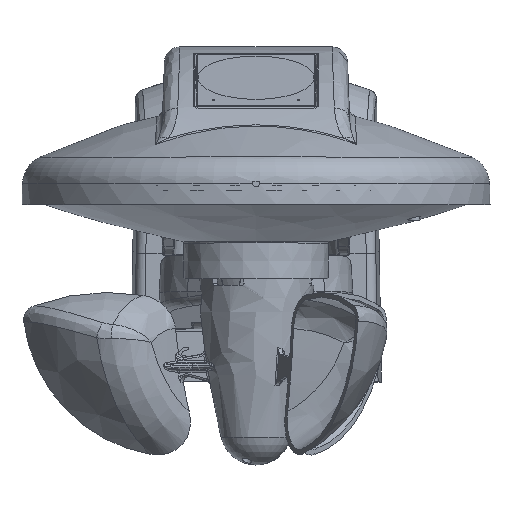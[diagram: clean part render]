
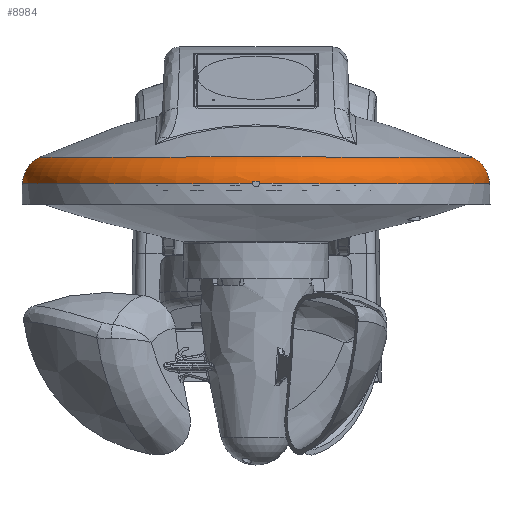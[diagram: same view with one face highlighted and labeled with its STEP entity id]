
A CAD part, top view. The second image highlights one B-rep face of the part: STEP entity #8984.
In plain terms, the highlighted toroidal (fillet/blend) face has major radius 52.495 mm and minor radius 8 mm.
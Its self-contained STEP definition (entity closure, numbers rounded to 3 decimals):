
#599=TOROIDAL_SURFACE('',#33919,52.495,8.);
#4808=CIRCLE('',#33915,60.49);
#4809=CIRCLE('',#33916,60.49);
#4810=CIRCLE('',#33918,56.093);
#8984=ADVANCED_FACE('',(#10714),#599,.T.);
#10714=FACE_OUTER_BOUND('',#12209,.T.);
#12209=EDGE_LOOP('',(#18430,#18431,#18432,#18433,#18434,#18435,#18436,#18437,
#18438,#18439,#18440,#18441));
#18430=ORIENTED_EDGE('',*,*,#27763,.T.);
#18431=ORIENTED_EDGE('',*,*,#27747,.F.);
#18432=ORIENTED_EDGE('',*,*,#27746,.T.);
#18433=ORIENTED_EDGE('',*,*,#27745,.T.);
#18434=ORIENTED_EDGE('',*,*,#27756,.T.);
#18435=ORIENTED_EDGE('',*,*,#27762,.T.);
#18436=ORIENTED_EDGE('',*,*,#27764,.F.);
#18437=ORIENTED_EDGE('',*,*,#27765,.F.);
#18438=ORIENTED_EDGE('',*,*,#27766,.F.);
#18439=ORIENTED_EDGE('',*,*,#27760,.T.);
#18440=ORIENTED_EDGE('',*,*,#27754,.T.);
#18441=ORIENTED_EDGE('',*,*,#27743,.T.);
#22518=VERTEX_POINT('',#61683);
#22521=VERTEX_POINT('',#61717);
#22613=VERTEX_POINT('',#64975);
#22614=VERTEX_POINT('',#65002);
#22615=VERTEX_POINT('',#65007);
#22616=VERTEX_POINT('',#65012);
#22617=VERTEX_POINT('',#65017);
#22618=VERTEX_POINT('',#65155);
#22619=VERTEX_POINT('',#65256);
#22620=VERTEX_POINT('',#65282);
#22621=VERTEX_POINT('',#65292);
#22622=VERTEX_POINT('',#65297);
#27743=EDGE_CURVE('',#22521,#22613,#30441,.T.);
#27745=EDGE_CURVE('',#22615,#22614,#30443,.T.);
#27746=EDGE_CURVE('',#22616,#22615,#30444,.T.);
#27747=EDGE_CURVE('',#22616,#22617,#30445,.T.);
#27754=EDGE_CURVE('',#22618,#22521,#30450,.T.);
#27756=EDGE_CURVE('',#22614,#22518,#30451,.T.);
#27760=EDGE_CURVE('',#22619,#22618,#4808,.T.);
#27762=EDGE_CURVE('',#22518,#22620,#4809,.T.);
#27763=EDGE_CURVE('',#22613,#22617,#4810,.T.);
#27764=EDGE_CURVE('',#22621,#22620,#30454,.T.);
#27765=EDGE_CURVE('',#22622,#22621,#30455,.T.);
#27766=EDGE_CURVE('',#22619,#22622,#30456,.T.);
#30441=B_SPLINE_CURVE_WITH_KNOTS('',3,(#64976,#64977,#64978,#64979),
 .UNSPECIFIED.,.F.,.F.,(4,4),(0.,1.),.UNSPECIFIED.);
#30443=B_SPLINE_CURVE_WITH_KNOTS('',3,(#65003,#65004,#65005,#65006),
 .UNSPECIFIED.,.F.,.F.,(4,4),(0.,1.),.UNSPECIFIED.);
#30444=B_SPLINE_CURVE_WITH_KNOTS('',3,(#65008,#65009,#65010,#65011),
 .UNSPECIFIED.,.F.,.F.,(4,4),(0.,1.),.UNSPECIFIED.);
#30445=B_SPLINE_CURVE_WITH_KNOTS('',3,(#65013,#65014,#65015,#65016),
 .UNSPECIFIED.,.F.,.F.,(4,4),(0.,1.),.UNSPECIFIED.);
#30450=B_SPLINE_CURVE_WITH_KNOTS('',3,(#65172,#65173,#65174,#65175),
 .UNSPECIFIED.,.F.,.F.,(4,4),(0.,1.),.UNSPECIFIED.);
#30451=B_SPLINE_CURVE_WITH_KNOTS('',3,(#65201,#65202,#65203,#65204),
 .UNSPECIFIED.,.F.,.F.,(4,4),(0.,1.),.UNSPECIFIED.);
#30454=B_SPLINE_CURVE_WITH_KNOTS('',3,(#65286,#65287,#65288,#65289,#65290,
#65291),.UNSPECIFIED.,.F.,.F.,(4,2,4),(0.,0.383,1.),
 .UNSPECIFIED.);
#30455=B_SPLINE_CURVE_WITH_KNOTS('',3,(#65293,#65294,#65295,#65296),
 .UNSPECIFIED.,.F.,.F.,(4,4),(0.,1.),.UNSPECIFIED.);
#30456=B_SPLINE_CURVE_WITH_KNOTS('',3,(#65298,#65299,#65300,#65301,#65302,
#65303,#65304),.UNSPECIFIED.,.F.,.F.,(4,3,4),(0.,0.848,1.),
 .UNSPECIFIED.);
#33915=AXIS2_PLACEMENT_3D('',#65255,#39525,#39526);
#33916=AXIS2_PLACEMENT_3D('',#65283,#39527,#39528);
#33918=AXIS2_PLACEMENT_3D('',#65285,#39531,#39532);
#33919=AXIS2_PLACEMENT_3D('',#65305,#39533,#39534);
#39525=DIRECTION('',(0.,1.,0.));
#39526=DIRECTION('',(-1.,0.,0.));
#39527=DIRECTION('',(0.,1.,0.));
#39528=DIRECTION('',(-1.,0.,0.));
#39531=DIRECTION('',(0.,-1.,0.));
#39532=DIRECTION('',(-1.,0.,0.));
#39533=DIRECTION('',(0.,-1.,0.));
#39534=DIRECTION('',(1.,0.,0.));
#61683=CARTESIAN_POINT('',(-26.155,50.225,111.759));
#61717=CARTESIAN_POINT('',(25.979,50.482,111.69));
#64975=CARTESIAN_POINT('',(26.111,57.089,116.654));
#64976=CARTESIAN_POINT('',(25.979,50.482,111.69));
#64977=CARTESIAN_POINT('',(25.872,53.247,111.845));
#64978=CARTESIAN_POINT('',(25.905,55.847,113.762));
#64979=CARTESIAN_POINT('',(26.113,57.089,116.654));
#65002=CARTESIAN_POINT('',(-25.979,50.482,111.69));
#65003=CARTESIAN_POINT('',(-25.93,52.188,112.002));
#65004=CARTESIAN_POINT('',(-25.94,51.633,111.827));
#65005=CARTESIAN_POINT('',(-25.957,51.06,111.722));
#65006=CARTESIAN_POINT('',(-25.979,50.482,111.69));
#65007=CARTESIAN_POINT('',(-25.93,52.188,112.002));
#65008=CARTESIAN_POINT('',(-25.93,52.221,112.012));
#65009=CARTESIAN_POINT('',(-25.93,52.21,112.009));
#65010=CARTESIAN_POINT('',(-25.93,52.199,112.005));
#65011=CARTESIAN_POINT('',(-25.93,52.188,112.002));
#65012=CARTESIAN_POINT('',(-25.93,52.221,112.012));
#65013=CARTESIAN_POINT('',(-25.929,52.22,112.014));
#65014=CARTESIAN_POINT('',(-25.891,54.386,112.71));
#65015=CARTESIAN_POINT('',(-25.957,56.158,114.487));
#65016=CARTESIAN_POINT('',(-26.113,57.089,116.654));
#65017=CARTESIAN_POINT('',(-26.111,57.089,116.654));
#65155=CARTESIAN_POINT('',(26.156,50.225,111.759));
#65172=CARTESIAN_POINT('',(26.156,50.225,111.759));
#65173=CARTESIAN_POINT('',(26.099,50.312,111.736));
#65174=CARTESIAN_POINT('',(26.04,50.398,111.713));
#65175=CARTESIAN_POINT('',(25.979,50.482,111.69));
#65201=CARTESIAN_POINT('',(-25.979,50.482,111.69));
#65202=CARTESIAN_POINT('',(-26.04,50.398,111.713));
#65203=CARTESIAN_POINT('',(-26.099,50.312,111.736));
#65204=CARTESIAN_POINT('',(-26.155,50.225,111.759));
#65255=CARTESIAN_POINT('',(0.,50.225,166.303));
#65256=CARTESIAN_POINT('',(0.955,50.225,226.785));
#65282=CARTESIAN_POINT('',(-0.955,50.225,226.785));
#65283=CARTESIAN_POINT('',(0.,50.225,166.303));
#65285=CARTESIAN_POINT('',(0.,57.091,166.303));
#65286=CARTESIAN_POINT('',(-1.002,50.763,226.747));
#65287=CARTESIAN_POINT('',(-1.006,50.695,226.754));
#65288=CARTESIAN_POINT('',(-1.007,50.625,226.761));
#65289=CARTESIAN_POINT('',(-0.999,50.445,226.775));
#65290=CARTESIAN_POINT('',(-0.983,50.333,226.781));
#65291=CARTESIAN_POINT('',(-0.955,50.225,226.785));
#65292=CARTESIAN_POINT('',(-1.002,50.763,226.747));
#65293=CARTESIAN_POINT('',(1.002,50.763,226.747));
#65294=CARTESIAN_POINT('',(0.334,50.888,226.746));
#65295=CARTESIAN_POINT('',(-0.334,50.888,226.746));
#65296=CARTESIAN_POINT('',(-1.002,50.763,226.747));
#65297=CARTESIAN_POINT('',(1.002,50.763,226.747));
#65298=CARTESIAN_POINT('',(0.955,50.225,226.785));
#65299=CARTESIAN_POINT('',(0.993,50.373,226.779));
#65300=CARTESIAN_POINT('',(1.009,50.528,226.769));
#65301=CARTESIAN_POINT('',(1.005,50.681,226.755));
#65302=CARTESIAN_POINT('',(1.005,50.708,226.753));
#65303=CARTESIAN_POINT('',(1.004,50.736,226.75));
#65304=CARTESIAN_POINT('',(1.002,50.763,226.747));
#65305=CARTESIAN_POINT('',(0.,49.946,166.303));
